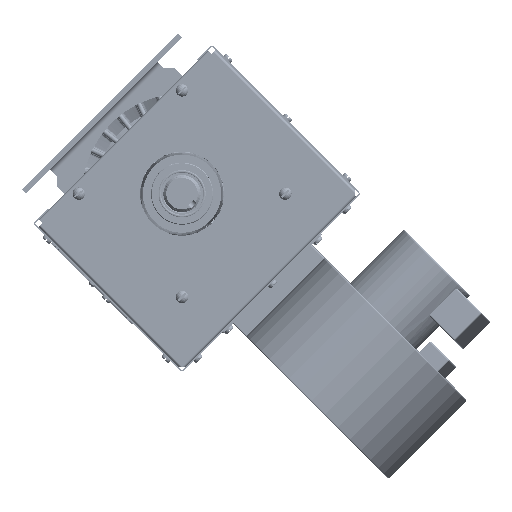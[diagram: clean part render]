
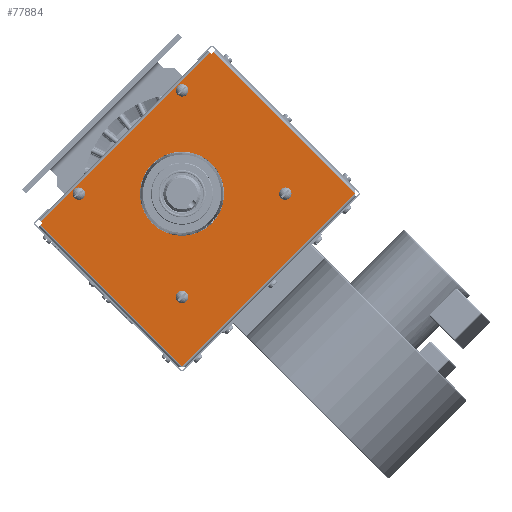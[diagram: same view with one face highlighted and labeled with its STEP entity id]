
A CAD part, front view. The second image highlights one B-rep face of the part: STEP entity #77884.
In plain terms, the highlighted planar face has unit normal (0, -1, 0).
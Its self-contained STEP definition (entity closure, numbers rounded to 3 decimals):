
#5648=FACE_BOUND('',#21595,.T.);
#5649=FACE_BOUND('',#21596,.T.);
#5650=FACE_BOUND('',#21597,.T.);
#5651=FACE_BOUND('',#21598,.T.);
#5652=FACE_BOUND('',#21599,.T.);
#6056=PLANE('',#83741);
#7742=LINE('',#131210,#11317);
#7743=LINE('',#131212,#11318);
#7744=LINE('',#131214,#11319);
#7745=LINE('',#131216,#11320);
#7746=LINE('',#131218,#11321);
#7747=LINE('',#131220,#11322);
#7748=LINE('',#131222,#11323);
#7749=LINE('',#131223,#11324);
#11317=VECTOR('',#94874,39.37);
#11318=VECTOR('',#94875,39.37);
#11319=VECTOR('',#94876,39.37);
#11320=VECTOR('',#94877,39.37);
#11321=VECTOR('',#94878,39.37);
#11322=VECTOR('',#94879,39.37);
#11323=VECTOR('',#94880,39.37);
#11324=VECTOR('',#94881,39.37);
#16505=FACE_OUTER_BOUND('',#21594,.T.);
#21594=EDGE_LOOP('',(#55324,#55325,#55326,#55327,#55328,#55329,#55330,#55331));
#21595=EDGE_LOOP('',(#55332));
#21596=EDGE_LOOP('',(#55333));
#21597=EDGE_LOOP('',(#55334));
#21598=EDGE_LOOP('',(#55335));
#21599=EDGE_LOOP('',(#55336));
#26997=CIRCLE('',#83724,0.284);
#27006=CIRCLE('',#83742,0.284);
#27007=CIRCLE('',#83743,0.284);
#27008=CIRCLE('',#83744,2.);
#27009=CIRCLE('',#83745,0.284);
#32496=VERTEX_POINT('',#131177);
#32504=VERTEX_POINT('',#131208);
#32505=VERTEX_POINT('',#131209);
#32506=VERTEX_POINT('',#131211);
#32507=VERTEX_POINT('',#131213);
#32508=VERTEX_POINT('',#131215);
#32509=VERTEX_POINT('',#131217);
#32510=VERTEX_POINT('',#131219);
#32511=VERTEX_POINT('',#131221);
#32512=VERTEX_POINT('',#131224);
#32513=VERTEX_POINT('',#131226);
#32514=VERTEX_POINT('',#131228);
#32515=VERTEX_POINT('',#131230);
#40712=EDGE_CURVE('',#32496,#32496,#26997,.T.);
#40725=EDGE_CURVE('',#32504,#32505,#7742,.T.);
#40726=EDGE_CURVE('',#32505,#32506,#7743,.T.);
#40727=EDGE_CURVE('',#32506,#32507,#7744,.T.);
#40728=EDGE_CURVE('',#32507,#32508,#7745,.T.);
#40729=EDGE_CURVE('',#32508,#32509,#7746,.T.);
#40730=EDGE_CURVE('',#32509,#32510,#7747,.T.);
#40731=EDGE_CURVE('',#32510,#32511,#7748,.T.);
#40732=EDGE_CURVE('',#32511,#32504,#7749,.T.);
#40733=EDGE_CURVE('',#32512,#32512,#27006,.T.);
#40734=EDGE_CURVE('',#32513,#32513,#27007,.T.);
#40735=EDGE_CURVE('',#32514,#32514,#27008,.T.);
#40736=EDGE_CURVE('',#32515,#32515,#27009,.T.);
#55324=ORIENTED_EDGE('',*,*,#40725,.T.);
#55325=ORIENTED_EDGE('',*,*,#40726,.T.);
#55326=ORIENTED_EDGE('',*,*,#40727,.T.);
#55327=ORIENTED_EDGE('',*,*,#40728,.T.);
#55328=ORIENTED_EDGE('',*,*,#40729,.T.);
#55329=ORIENTED_EDGE('',*,*,#40730,.T.);
#55330=ORIENTED_EDGE('',*,*,#40731,.T.);
#55331=ORIENTED_EDGE('',*,*,#40732,.T.);
#55332=ORIENTED_EDGE('',*,*,#40733,.F.);
#55333=ORIENTED_EDGE('',*,*,#40734,.F.);
#55334=ORIENTED_EDGE('',*,*,#40735,.T.);
#55335=ORIENTED_EDGE('',*,*,#40736,.F.);
#55336=ORIENTED_EDGE('',*,*,#40712,.F.);
#77884=ADVANCED_FACE('',(#16505,#5648,#5649,#5650,#5651,#5652),#6056,.F.);
#83724=AXIS2_PLACEMENT_3D('',#131179,#94834,#94835);
#83741=AXIS2_PLACEMENT_3D('',#131207,#94872,#94873);
#83742=AXIS2_PLACEMENT_3D('',#131225,#94882,#94883);
#83743=AXIS2_PLACEMENT_3D('',#131227,#94884,#94885);
#83744=AXIS2_PLACEMENT_3D('',#131229,#94886,#94887);
#83745=AXIS2_PLACEMENT_3D('',#131231,#94888,#94889);
#94834=DIRECTION('center_axis',(0.,-1.,0.));
#94835=DIRECTION('ref_axis',(0.,0.,-1.));
#94872=DIRECTION('center_axis',(0.,1.,0.));
#94873=DIRECTION('ref_axis',(-0.707,0.,0.707));
#94874=DIRECTION('',(-0.707,0.,-0.707));
#94875=DIRECTION('',(0.707,0.,-0.707));
#94876=DIRECTION('',(-0.707,0.,-0.707));
#94877=DIRECTION('',(0.707,0.,-0.707));
#94878=DIRECTION('',(0.707,0.,0.707));
#94879=DIRECTION('',(-0.707,0.,0.707));
#94880=DIRECTION('',(-0.707,0.,-0.707));
#94881=DIRECTION('',(-0.707,0.,0.707));
#94882=DIRECTION('center_axis',(0.,-1.,0.));
#94883=DIRECTION('ref_axis',(0.,0.,-1.));
#94884=DIRECTION('center_axis',(0.,-1.,0.));
#94885=DIRECTION('ref_axis',(-0.618,0.,0.786));
#94886=DIRECTION('center_axis',(0.,1.,0.));
#94887=DIRECTION('ref_axis',(-0.707,0.,0.707));
#94888=DIRECTION('center_axis',(0.,-1.,0.));
#94889=DIRECTION('ref_axis',(0.,0.,-1.));
#131177=CARTESIAN_POINT('',(4.703,-4.25,0.199));
#131179=CARTESIAN_POINT('Origin',(4.906,-4.25,0.));
#131207=CARTESIAN_POINT('Origin',(0.707,-4.25,-0.707));
#131208=CARTESIAN_POINT('',(1.333,-4.25,6.711));
#131209=CARTESIAN_POINT('',(-6.71,-4.25,-1.333));
#131210=CARTESIAN_POINT('',(1.333,-4.25,6.711));
#131211=CARTESIAN_POINT('',(-6.629,-4.25,-1.414));
#131212=CARTESIAN_POINT('',(-6.806,-4.25,-1.237));
#131213=CARTESIAN_POINT('',(-6.71,-4.25,-1.496));
#131214=CARTESIAN_POINT('',(-6.806,-4.25,-1.591));
#131215=CARTESIAN_POINT('',(0.,-4.25,-8.206));
#131216=CARTESIAN_POINT('',(-6.71,-4.25,-1.496));
#131217=CARTESIAN_POINT('',(8.206,-4.25,0.));
#131218=CARTESIAN_POINT('',(0.,-4.25,-8.206));
#131219=CARTESIAN_POINT('',(1.496,-4.25,6.711));
#131220=CARTESIAN_POINT('',(8.206,-4.25,0.));
#131221=CARTESIAN_POINT('',(1.414,-4.25,6.629));
#131222=CARTESIAN_POINT('',(1.591,-4.25,6.806));
#131223=CARTESIAN_POINT('',(1.238,-4.25,6.806));
#131224=CARTESIAN_POINT('',(-0.199,-4.25,-4.703));
#131225=CARTESIAN_POINT('Origin',(0.,-4.25,-4.906));
#131226=CARTESIAN_POINT('',(-4.73,-4.25,-0.224));
#131227=CARTESIAN_POINT('Origin',(-4.906,-4.25,0.));
#131228=CARTESIAN_POINT('',(1.414,-4.25,-1.414));
#131229=CARTESIAN_POINT('Origin',(0.,-4.25,0.));
#131230=CARTESIAN_POINT('',(-0.199,-4.25,5.109));
#131231=CARTESIAN_POINT('Origin',(0.,-4.25,4.906));
